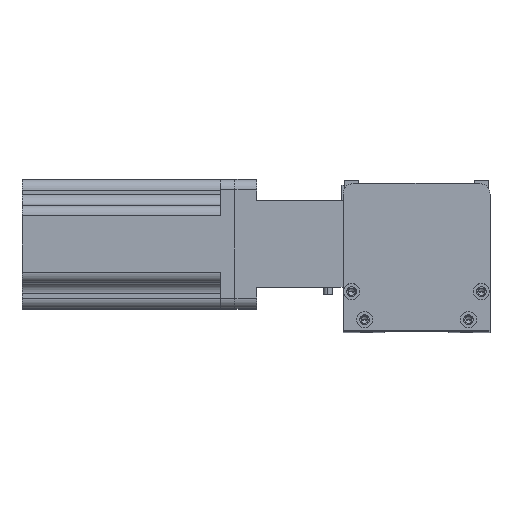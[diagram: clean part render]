
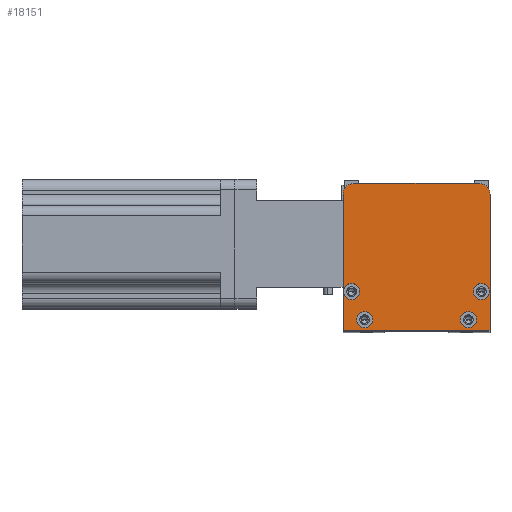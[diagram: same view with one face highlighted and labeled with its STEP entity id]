
A CAD part, top view. The second image highlights one B-rep face of the part: STEP entity #18151.
In plain terms, the highlighted planar face has unit normal (0, 0, 1) as drawn and (0, 0, -1) by its records, which use the part's own axes.
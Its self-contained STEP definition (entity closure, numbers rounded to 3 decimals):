
#802 = CARTESIAN_POINT ( 'NONE',  ( 0., 63., 0. ) ) ;
#893 = VERTEX_POINT ( 'NONE', #6264 ) ;
#915 = ORIENTED_EDGE ( 'NONE', *, *, #2291, .F. ) ;
#970 = VERTEX_POINT ( 'NONE', #802 ) ;
#987 = LINE ( 'NONE', #3036, #15534 ) ;
#1069 = EDGE_CURVE ( 'NONE', #1988, #7032, #20437, .T. ) ;
#1070 = DIRECTION ( 'NONE',  ( 0., 0., -1. ) ) ;
#1270 = ORIENTED_EDGE ( 'NONE', *, *, #3052, .F. ) ;
#1421 = CARTESIAN_POINT ( 'NONE',  ( 4., 18., 0. ) ) ;
#1524 = ORIENTED_EDGE ( 'NONE', *, *, #24145, .F. ) ;
#1546 = VERTEX_POINT ( 'NONE', #6877 ) ;
#1594 = VERTEX_POINT ( 'NONE', #14602 ) ;
#1679 = CIRCLE ( 'NONE', #13157, 3.75 ) ;
#1684 = AXIS2_PLACEMENT_3D ( 'NONE', #7026, #20275, #8931 ) ;
#1754 = CARTESIAN_POINT ( 'NONE',  ( 63., 63., 0. ) ) ;
#1923 = CARTESIAN_POINT ( 'NONE',  ( 13.75, 5., 0. ) ) ;
#1988 = VERTEX_POINT ( 'NONE', #20889 ) ;
#2125 = FACE_BOUND ( 'NONE', #6331, .T. ) ;
#2225 = CARTESIAN_POINT ( 'NONE',  ( 0., 0., 0. ) ) ;
#2291 = EDGE_CURVE ( 'NONE', #11160, #13631, #10850, .T. ) ;
#2306 = EDGE_CURVE ( 'NONE', #18275, #3399, #5809, .T. ) ;
#2330 = EDGE_LOOP ( 'NONE', ( #21056, #18115, #10407, #14718, #915, #14287 ) ) ;
#2498 = AXIS2_PLACEMENT_3D ( 'NONE', #14315, #2949, #16215 ) ;
#2643 = AXIS2_PLACEMENT_3D ( 'NONE', #8484, #21726, #10383 ) ;
#2874 = EDGE_CURVE ( 'NONE', #14142, #893, #14205, .T. ) ;
#2949 = DIRECTION ( 'NONE',  ( 0., 0., -1. ) ) ;
#3036 = CARTESIAN_POINT ( 'NONE',  ( 0., 0., 0. ) ) ;
#3052 = EDGE_CURVE ( 'NONE', #13723, #1594, #17258, .T. ) ;
#3244 = ORIENTED_EDGE ( 'NONE', *, *, #9399, .F. ) ;
#3320 = DIRECTION ( 'NONE',  ( -1., 0., 0. ) ) ;
#3399 = VERTEX_POINT ( 'NONE', #17850 ) ;
#3649 = DIRECTION ( 'NONE',  ( 1., 0., 0. ) ) ;
#3805 = AXIS2_PLACEMENT_3D ( 'NONE', #1421, #14681, #3320 ) ;
#4727 = DIRECTION ( 'NONE',  ( 0., 1., 0. ) ) ;
#5193 = AXIS2_PLACEMENT_3D ( 'NONE', #7773, #21006, #9680 ) ;
#5809 = LINE ( 'NONE', #21797, #24178 ) ;
#5957 = FACE_BOUND ( 'NONE', #17585, .T. ) ;
#6264 = CARTESIAN_POINT ( 'NONE',  ( 67.75, 18., 0. ) ) ;
#6331 = EDGE_LOOP ( 'NONE', ( #3244, #1270 ) ) ;
#6449 = CIRCLE ( 'NONE', #2643, 3.75 ) ;
#6672 = CARTESIAN_POINT ( 'NONE',  ( 7.75, 18., 0. ) ) ;
#6803 = AXIS2_PLACEMENT_3D ( 'NONE', #19792, #8457, #21697 ) ;
#6877 = CARTESIAN_POINT ( 'NONE',  ( 54.25, 5., 0. ) ) ;
#7026 = CARTESIAN_POINT ( 'NONE',  ( 64., 18., 0. ) ) ;
#7032 = VERTEX_POINT ( 'NONE', #1923 ) ;
#7058 = CARTESIAN_POINT ( 'NONE',  ( 63., 68., 0. ) ) ;
#7773 = CARTESIAN_POINT ( 'NONE',  ( 4., 18., 0. ) ) ;
#7856 = CIRCLE ( 'NONE', #14549, 5. ) ;
#8237 = AXIS2_PLACEMENT_3D ( 'NONE', #21720, #23698, #12395 ) ;
#8457 = DIRECTION ( 'NONE',  ( 0., 0., -1. ) ) ;
#8465 = CARTESIAN_POINT ( 'NONE',  ( 68., 0., 0. ) ) ;
#8484 = CARTESIAN_POINT ( 'NONE',  ( 58., 5., 0. ) ) ;
#8546 = DIRECTION ( 'NONE',  ( -1., 0., 0. ) ) ;
#8790 = CARTESIAN_POINT ( 'NONE',  ( 61.75, 5., 0. ) ) ;
#8922 = CARTESIAN_POINT ( 'NONE',  ( 5., 63., 0. ) ) ;
#8931 = DIRECTION ( 'NONE',  ( -1., 0., 0. ) ) ;
#9390 = DIRECTION ( 'NONE',  ( 1., 0., 0. ) ) ;
#9399 = EDGE_CURVE ( 'NONE', #1594, #13723, #10895, .T. ) ;
#9427 = DIRECTION ( 'NONE',  ( 0., 0., -1. ) ) ;
#9528 = FACE_BOUND ( 'NONE', #15535, .T. ) ;
#9680 = DIRECTION ( 'NONE',  ( -1., 0., 0. ) ) ;
#9745 = VERTEX_POINT ( 'NONE', #8790 ) ;
#10091 = ORIENTED_EDGE ( 'NONE', *, *, #20618, .F. ) ;
#10268 = CARTESIAN_POINT ( 'NONE',  ( 68., 63., 0. ) ) ;
#10269 = VECTOR ( 'NONE', #4727, 1000. ) ;
#10383 = DIRECTION ( 'NONE',  ( -1., 0., 0. ) ) ;
#10404 = EDGE_CURVE ( 'NONE', #970, #3399, #7856, .T. ) ;
#10407 = ORIENTED_EDGE ( 'NONE', *, *, #2306, .F. ) ;
#10526 = CIRCLE ( 'NONE', #1684, 3.75 ) ;
#10824 = LINE ( 'NONE', #20728, #14860 ) ;
#10834 = DIRECTION ( 'NONE',  ( 1., 0., 0. ) ) ;
#10850 = LINE ( 'NONE', #8465, #10269 ) ;
#10895 = CIRCLE ( 'NONE', #5193, 3.75 ) ;
#11160 = VERTEX_POINT ( 'NONE', #22071 ) ;
#11296 = EDGE_CURVE ( 'NONE', #15316, #11160, #10824, .T. ) ;
#11614 = FACE_BOUND ( 'NONE', #21713, .T. ) ;
#11970 = ORIENTED_EDGE ( 'NONE', *, *, #2874, .F. ) ;
#12395 = DIRECTION ( 'NONE',  ( 1., 0., 0. ) ) ;
#12423 = CARTESIAN_POINT ( 'NONE',  ( 10., 5., 0. ) ) ;
#12667 = ORIENTED_EDGE ( 'NONE', *, *, #22308, .F. ) ;
#13157 = AXIS2_PLACEMENT_3D ( 'NONE', #12423, #1070, #14322 ) ;
#13423 = CIRCLE ( 'NONE', #18534, 3.75 ) ;
#13631 = VERTEX_POINT ( 'NONE', #10268 ) ;
#13723 = VERTEX_POINT ( 'NONE', #6672 ) ;
#14142 = VERTEX_POINT ( 'NONE', #17414 ) ;
#14205 = CIRCLE ( 'NONE', #6803, 3.75 ) ;
#14287 = ORIENTED_EDGE ( 'NONE', *, *, #11296, .F. ) ;
#14315 = CARTESIAN_POINT ( 'NONE',  ( 10., 5., 0. ) ) ;
#14322 = DIRECTION ( 'NONE',  ( -1., 0., 0. ) ) ;
#14549 = AXIS2_PLACEMENT_3D ( 'NONE', #8922, #22167, #10834 ) ;
#14602 = CARTESIAN_POINT ( 'NONE',  ( 0.25, 18., 0. ) ) ;
#14681 = DIRECTION ( 'NONE',  ( 0., 0., -1. ) ) ;
#14718 = ORIENTED_EDGE ( 'NONE', *, *, #21313, .T. ) ;
#14860 = VECTOR ( 'NONE', #9390, 1000. ) ;
#15016 = DIRECTION ( 'NONE',  ( 0., 0., -1. ) ) ;
#15316 = VERTEX_POINT ( 'NONE', #2225 ) ;
#15534 = VECTOR ( 'NONE', #21994, 1000. ) ;
#15535 = EDGE_LOOP ( 'NONE', ( #11970, #12667 ) ) ;
#16215 = DIRECTION ( 'NONE',  ( -1., 0., 0. ) ) ;
#17258 = CIRCLE ( 'NONE', #3805, 3.75 ) ;
#17414 = CARTESIAN_POINT ( 'NONE',  ( 60.25, 18., 0. ) ) ;
#17585 = EDGE_LOOP ( 'NONE', ( #24230, #18910 ) ) ;
#17850 = CARTESIAN_POINT ( 'NONE',  ( 5., 68., 0. ) ) ;
#18115 = ORIENTED_EDGE ( 'NONE', *, *, #10404, .T. ) ;
#18151 = ADVANCED_FACE ( 'NONE', ( #9528, #2125, #5957, #11614, #21655 ), #19911, .F. ) ;
#18275 = VERTEX_POINT ( 'NONE', #7058 ) ;
#18534 = AXIS2_PLACEMENT_3D ( 'NONE', #20762, #9427, #22683 ) ;
#18910 = ORIENTED_EDGE ( 'NONE', *, *, #21755, .F. ) ;
#19753 = AXIS2_PLACEMENT_3D ( 'NONE', #1754, #15016, #3649 ) ;
#19792 = CARTESIAN_POINT ( 'NONE',  ( 64., 18., 0. ) ) ;
#19911 = PLANE ( 'NONE',  #8237 ) ;
#20275 = DIRECTION ( 'NONE',  ( 0., 0., -1. ) ) ;
#20437 = CIRCLE ( 'NONE', #2498, 3.75 ) ;
#20618 = EDGE_CURVE ( 'NONE', #9745, #1546, #6449, .T. ) ;
#20728 = CARTESIAN_POINT ( 'NONE',  ( 68., 0., 0. ) ) ;
#20762 = CARTESIAN_POINT ( 'NONE',  ( 58., 5., 0. ) ) ;
#20889 = CARTESIAN_POINT ( 'NONE',  ( 6.25, 5., 0. ) ) ;
#21006 = DIRECTION ( 'NONE',  ( 0., 0., -1. ) ) ;
#21056 = ORIENTED_EDGE ( 'NONE', *, *, #24506, .F. ) ;
#21313 = EDGE_CURVE ( 'NONE', #18275, #13631, #24473, .T. ) ;
#21655 = FACE_OUTER_BOUND ( 'NONE', #2330, .T. ) ;
#21697 = DIRECTION ( 'NONE',  ( -1., 0., 0. ) ) ;
#21713 = EDGE_LOOP ( 'NONE', ( #1524, #10091 ) ) ;
#21720 = CARTESIAN_POINT ( 'NONE',  ( 0., 0., 0. ) ) ;
#21726 = DIRECTION ( 'NONE',  ( 0., 0., -1. ) ) ;
#21755 = EDGE_CURVE ( 'NONE', #7032, #1988, #1679, .T. ) ;
#21797 = CARTESIAN_POINT ( 'NONE',  ( 68., 68., 0. ) ) ;
#21994 = DIRECTION ( 'NONE',  ( 0., -1., 0. ) ) ;
#22071 = CARTESIAN_POINT ( 'NONE',  ( 68., 0., 0. ) ) ;
#22167 = DIRECTION ( 'NONE',  ( 0., 0., -1. ) ) ;
#22308 = EDGE_CURVE ( 'NONE', #893, #14142, #10526, .T. ) ;
#22683 = DIRECTION ( 'NONE',  ( -1., 0., 0. ) ) ;
#23698 = DIRECTION ( 'NONE',  ( 0., 0., 1. ) ) ;
#24145 = EDGE_CURVE ( 'NONE', #1546, #9745, #13423, .T. ) ;
#24178 = VECTOR ( 'NONE', #8546, 1000. ) ;
#24230 = ORIENTED_EDGE ( 'NONE', *, *, #1069, .F. ) ;
#24473 = CIRCLE ( 'NONE', #19753, 5. ) ;
#24506 = EDGE_CURVE ( 'NONE', #970, #15316, #987, .T. ) ;
